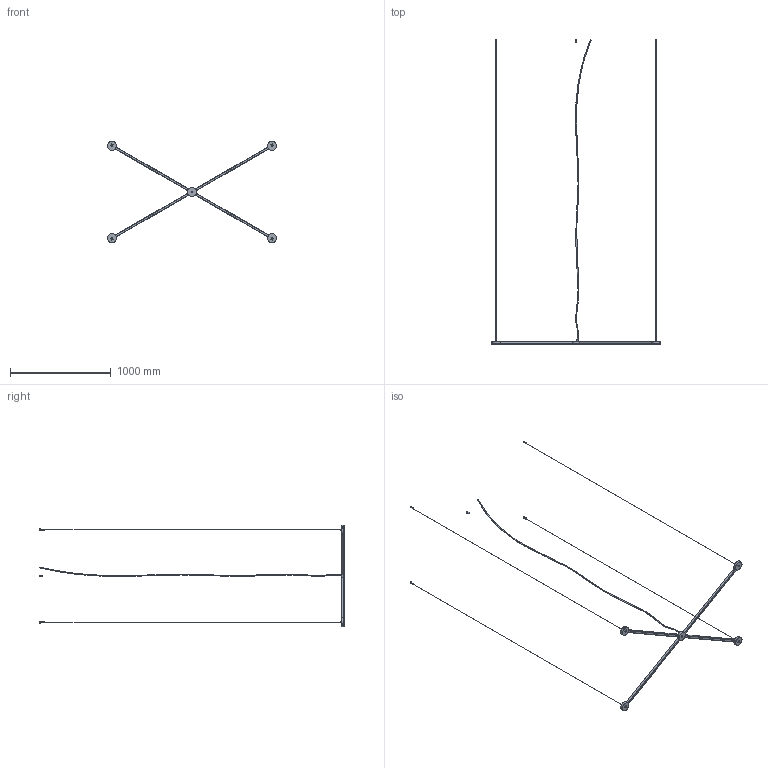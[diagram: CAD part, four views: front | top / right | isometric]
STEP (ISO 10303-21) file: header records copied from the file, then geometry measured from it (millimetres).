
FILE_DESCRIPTION (( 'STEP AP203' ), '1' );
FILE_NAME ('SPPOS0208XXXXXX-PER 3D.STEP', '2026-07-07T17:56:38', ( '' ), ( '' ), 'SwSTEP 2.0', 'SolidWorks 2026', '' );
FILE_SCHEMA (( 'CONFIG_CONTROL_DESIGN' ));
Length unit declared in the file: millimetre
Products named in the file (1): SPPOS0208XXXXXX-PER 3D
Bounding box: 1674.33 x 3012.21 x 1004.5 mm (x, y, z)
Surface area: 570817 mm2 (no closed solid volume)
Topology: 0 solids, 113 shells, 273 faces, 3472 edges, 3260 vertices
Faces by surface type: plane 136, cylinder 113, cone 18, bspline 6
Entity records: 36505 total; most frequent: CARTESIAN_POINT 12573, DIRECTION 4824, ORIENTED_EDGE 3749, EDGE_CURVE 3472, VERTEX_POINT 3260, VECTOR 1884, LINE 1884, AXIS2_PLACEMENT_3D 1470
